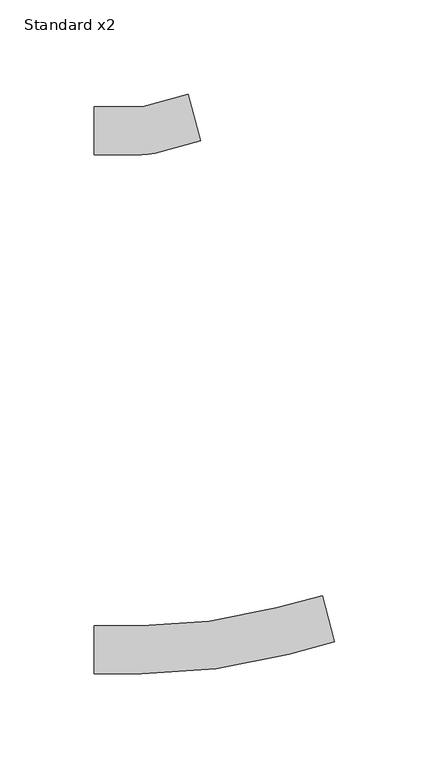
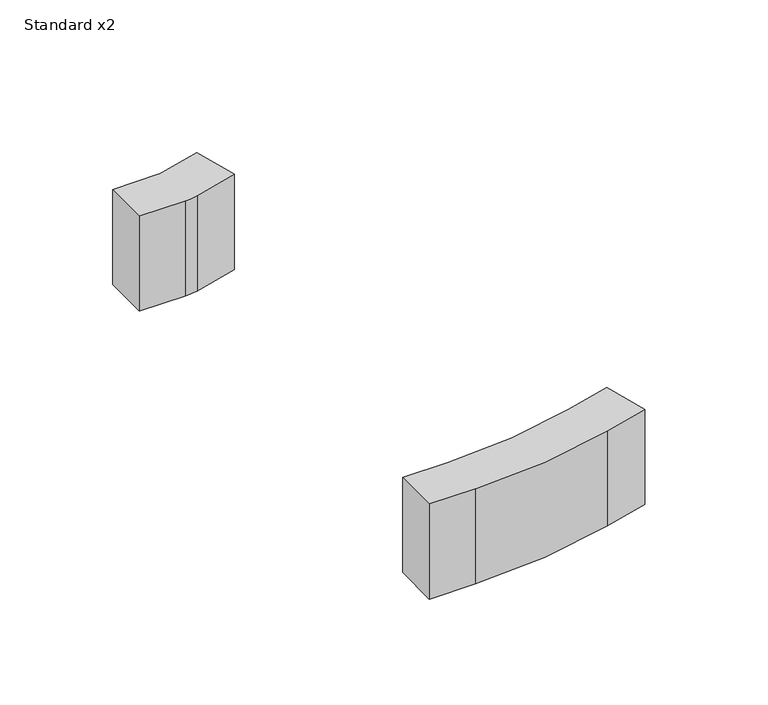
"""IFC4 building model written with IfcOpenShell, lengths in millimetres: cable carrier fitting geometry, BAKS_Łącznik_kątowy : Standard x2."""

from ifc_helpers import new_model, si_unit, point, frame, frame_2d, origin, place, context, project, spatial, polyline, circle_curve, trimmed, segment, composite_curve, outline, extrude, source, transform, mapped, element, save


def standard_x2_db8cc8cd(model_context):
    return source(origin(), model_context, "Body", "SweptSolid", [
        extrude(outline(composite_curve([segment(polyline([(-45.0111796, -150.0), (-45.0111796, -124.6), (-20.0111796, -124.6)]), True, "CONTINUOUS"), segment(trimmed(circle_curve(frame_2d((-20.0111796, 152.0)), 276.6), [point((-20.0111796, -124.6))], [point((51.5781682, -115.1750836))], True, "CARTESIAN"), True, "CONTINUOUS"), segment(polyline([(51.5781682, -115.1750836), (75.7263139, -108.7046074), (82.3003176, -133.2391234), (58.152172, -139.7095995)]), True, "CONTINUOUS"), segment(trimmed(circle_curve(frame_2d((-20.0111796, 152.0)), 302.0), [point((58.152172, -139.7095995))], [point((-20.0111796, -150.0))], False, "CARTESIAN"), True, "CONTINUOUS"), segment(polyline([(-20.0111796, -150.0), (-45.0111796, -150.0)]), True, "CONTINUOUS")], self_intersect=False)), frame((0.0, 0.0, -27.5), z_axis=(0.0, 0.0, 1.0), x_axis=(1.0, 0.0, 0.0)), (0.0, 0.0, 1.0), 55.0),
        extrude(outline(composite_curve([segment(polyline([(-45.0111796, 124.6), (-45.0111796, 150.0), (-20.0111796, 150.0)]), True, "CONTINUOUS"), segment(trimmed(circle_curve(frame_2d((-20.0111796, 152.0)), 2.0), [point((-20.0111796, 150.0))], [point((-19.4935415, 150.0681483))], True, "CARTESIAN"), True, "CONTINUOUS"), segment(polyline([(-19.4935415, 150.0681483), (4.6546041, 156.5386245), (11.2286079, 132.0041085), (-12.9195378, 125.5336324)]), True, "CONTINUOUS"), segment(trimmed(circle_curve(frame_2d((-20.0111796, 152.0)), 27.4), [point((-12.9195378, 125.5336324))], [point((-20.0111796, 124.6))], False, "CARTESIAN"), True, "CONTINUOUS"), segment(polyline([(-20.0111796, 124.6), (-45.0111796, 124.6)]), True, "CONTINUOUS")], self_intersect=False)), frame((0.0, 0.0, -27.5), z_axis=(0.0, 0.0, 1.0), x_axis=(1.0, 0.0, 0.0)), (0.0, 0.0, 1.0), 55.0),
    ])


if __name__ == "__main__":
    model = new_model("IFC4")
    model_context = context("Model", 3, world=origin())
    ifc_project = project(units=[si_unit("LENGTHUNIT", "METRE", prefix="MILLI")], contexts=[model_context])
    site = spatial("IfcSite", under=ifc_project)
    building = spatial("IfcBuilding", under=site)
    placement = place(None, origin())
    standard_x2_shape = standard_x2_db8cc8cd(model_context)
    element("IfcCableCarrierFitting", 1, ObjectType="BAKS_Łącznik_kątowy : Standard x2", at=placement, inside=building, context=model_context, shape_type="MappedRepresentation", body=[
        mapped(standard_x2_shape, transform((0.0, 0.0, 0.0), x_axis=(1.0, 0.0, 0.0), y_axis=(0.0, 1.0, 0.0), z_axis=(0.0, 0.0, 1.0))),
    ])
    save(model, "model.ifc")
